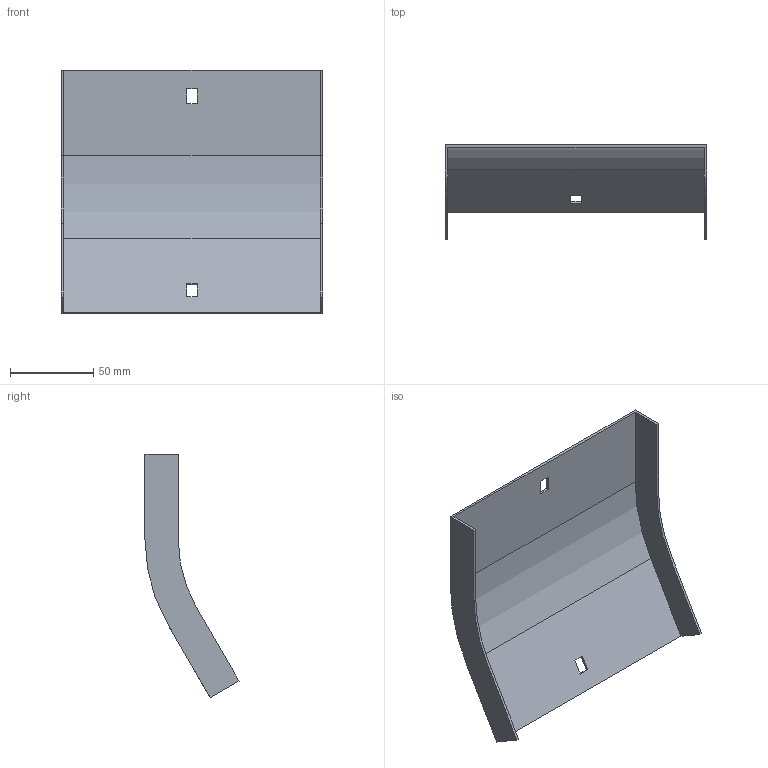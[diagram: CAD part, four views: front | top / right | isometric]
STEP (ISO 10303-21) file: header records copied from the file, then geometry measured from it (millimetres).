
FILE_DESCRIPTION (( 'STEP AP214' ), '1' );
FILE_NAME ('35G1C150.step', '2025-02-21T12:41:50', ( '' ), ( '' ), 'SwSTEP 2.0', 'SolidWorks 2023', '' );
FILE_SCHEMA (( 'AUTOMOTIVE_DESIGN' ));
Length unit declared in the file: millimetre
Products named in the file (1): 35G1C150
Bounding box: 157 x 56.52 x 146.29 mm (x, y, z)
Volume: 44683.3 mm3; surface area: 60689.1 mm2
Topology: 1 solids, 1 shells, 26 faces, 72 edges, 48 vertices
Faces by surface type: plane 22, cylinder 4
Entity records: 855 total; most frequent: CARTESIAN_POINT 147, ORIENTED_EDGE 144, DIRECTION 134, EDGE_CURVE 72, LINE 64, VECTOR 64, VERTEX_POINT 48, AXIS2_PLACEMENT_3D 35
